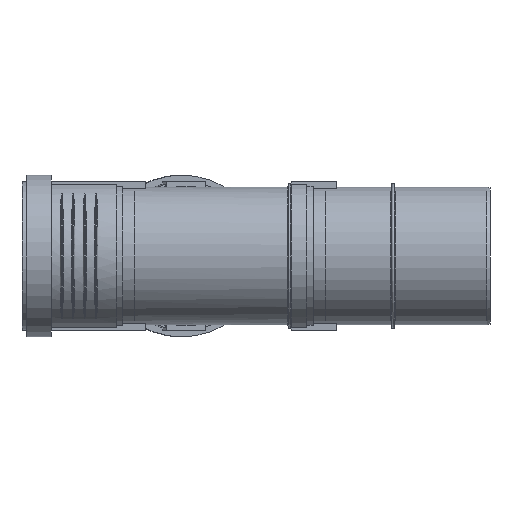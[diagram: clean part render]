
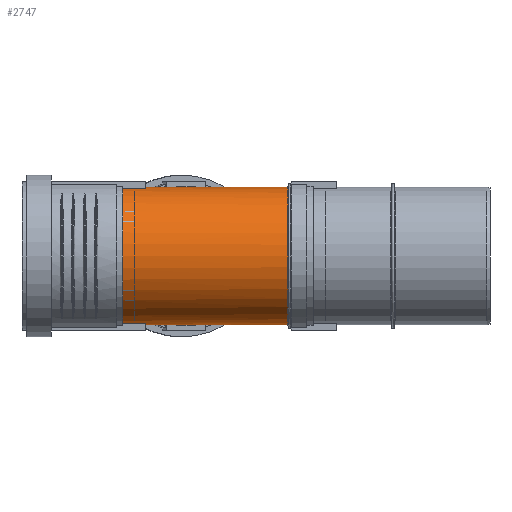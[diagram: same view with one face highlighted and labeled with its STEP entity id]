
A CAD part, left-side view. The second image highlights one B-rep face of the part: STEP entity #2747.
In plain terms, the highlighted cylindrical face has radius 45.1 mm (diameter 90.2 mm), a full revolution.
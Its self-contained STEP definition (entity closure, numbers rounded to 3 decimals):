
#340=B_SPLINE_CURVE_WITH_KNOTS($,3,(#5373,#5374,#5375,#5376,#5377,#5378,
#5379,#5380,#5381,#5382,#5383,#5384,#5385,#5386,#5387,#5388,#5389,#5390,
#5391,#5392,#5393,#5394,#5395,#5396,#5397,#5398,#5399,#5400,#5401,#5402,
#5403,#5404,#5405,#5406,#5407,#5408,#5409,#5410,#5411,#5412,#5413,#5414,
#5415,#5416,#5417,#5418,#5419,#5420,#5421,#5422,#5423,#5424,#5425,#5426),
 .UNSPECIFIED.,.F.,.F.,(4,2,2,2,2,2,2,2,2,2,2,2,2,2,2,2,2,2,2,2,2,2,2,2,
2,2,4),(0.,1.704,3.086,3.711,4.248,
4.999,5.726,6.81,8.878,10.793,
12.337,13.5,14.195,14.805,15.577,
16.831,18.13,20.217,21.528,22.465,
23.252,23.991,24.586,25.121,25.957,
27.165,29.079),.UNSPECIFIED.);
#533=CYLINDRICAL_SURFACE($,#3014,45.1);
#613=FACE_BOUND($,#949,.T.);
#740=FACE_OUTER_BOUND($,#948,.T.);
#948=EDGE_LOOP($,(#2202));
#949=EDGE_LOOP($,(#2203,#2204));
#1123=CIRCLE($,#3015,45.1);
#1124=CIRCLE($,#3016,45.1);
#1329=VERTEX_POINT($,#5355);
#1330=VERTEX_POINT($,#5356);
#1331=VERTEX_POINT($,#5428);
#1644=EDGE_CURVE($,#1330,#1329,#340,.T.);
#1645=EDGE_CURVE($,#1331,#1331,#1123,.T.);
#1646=EDGE_CURVE($,#1329,#1330,#1124,.T.);
#2202=ORIENTED_EDGE($,*,*,#1645,.F.);
#2203=ORIENTED_EDGE($,*,*,#1646,.T.);
#2204=ORIENTED_EDGE($,*,*,#1644,.T.);
#2747=ADVANCED_FACE($,(#740,#613),#533,.T.);
#3014=AXIS2_PLACEMENT_3D($,#5427,#3598,#3599);
#3015=AXIS2_PLACEMENT_3D($,#5429,#3600,#3601);
#3016=AXIS2_PLACEMENT_3D($,#5430,#3602,#3603);
#3598=DIRECTION('center_axis',(0.,1.,0.));
#3599=DIRECTION('ref_axis',(-1.,0.,0.));
#3600=DIRECTION('center_axis',(0.,1.,0.));
#3601=DIRECTION('ref_axis',(-1.,0.,0.));
#3602=DIRECTION('center_axis',(0.,1.,0.));
#3603=DIRECTION('ref_axis',(-1.,0.,0.));
#5355=CARTESIAN_POINT('',(39.957,64.1,-20.915));
#5356=CARTESIAN_POINT('',(39.957,64.1,20.915));
#5373=CARTESIAN_POINT('Ctrl Pts',(39.957,64.1,20.915));
#5374=CARTESIAN_POINT('Ctrl Pts',(37.356,64.993,25.884));
#5375=CARTESIAN_POINT('Ctrl Pts',(33.854,66.188,30.288));
#5376=CARTESIAN_POINT('Ctrl Pts',(26.476,69.061,36.775));
#5377=CARTESIAN_POINT('Ctrl Pts',(23.146,70.488,38.841));
#5378=CARTESIAN_POINT('Ctrl Pts',(18.967,72.848,40.944));
#5379=CARTESIAN_POINT('Ctrl Pts',(17.662,73.677,41.518));
#5380=CARTESIAN_POINT('Ctrl Pts',(15.393,75.463,42.407));
#5381=CARTESIAN_POINT('Ctrl Pts',(14.405,76.388,42.747));
#5382=CARTESIAN_POINT('Ctrl Pts',(12.324,78.936,43.402));
#5383=CARTESIAN_POINT('Ctrl Pts',(11.44,80.578,43.629));
#5384=CARTESIAN_POINT('Ctrl Pts',(10.292,84.245,43.914));
#5385=CARTESIAN_POINT('Ctrl Pts',(10.044,86.147,43.967));
#5386=CARTESIAN_POINT('Ctrl Pts',(9.896,90.838,44.001));
#5387=CARTESIAN_POINT('Ctrl Pts',(10.202,94.236,43.94));
#5388=CARTESIAN_POINT('Ctrl Pts',(12.682,106.553,43.313));
#5389=CARTESIAN_POINT('Ctrl Pts',(16.039,116.212,42.404));
#5390=CARTESIAN_POINT('Ctrl Pts',(24.001,134.489,38.423));
#5391=CARTESIAN_POINT('Ctrl Pts',(28.208,142.543,35.629));
#5392=CARTESIAN_POINT('Ctrl Pts',(35.277,154.991,28.456));
#5393=CARTESIAN_POINT('Ctrl Pts',(38.02,159.417,24.703));
#5394=CARTESIAN_POINT('Ctrl Pts',(41.748,165.275,17.421));
#5395=CARTESIAN_POINT('Ctrl Pts',(43.117,167.351,13.845));
#5396=CARTESIAN_POINT('Ctrl Pts',(44.546,169.495,7.46));
#5397=CARTESIAN_POINT('Ctrl Pts',(44.899,170.018,4.97));
#5398=CARTESIAN_POINT('Ctrl Pts',(45.156,170.4,0.162));
#5399=CARTESIAN_POINT('Ctrl Pts',(45.107,170.328,-2.085));
#5400=CARTESIAN_POINT('Ctrl Pts',(44.623,169.608,-7.128));
#5401=CARTESIAN_POINT('Ctrl Pts',(44.096,168.824,-9.827));
#5402=CARTESIAN_POINT('Ctrl Pts',(42.193,165.947,-16.497));
#5403=CARTESIAN_POINT('Ctrl Pts',(40.425,163.249,-20.443));
#5404=CARTESIAN_POINT('Ctrl Pts',(35.801,155.794,-27.781));
#5405=CARTESIAN_POINT('Ctrl Pts',(33.163,151.353,-30.767));
#5406=CARTESIAN_POINT('Ctrl Pts',(26.428,139.184,-36.979));
#5407=CARTESIAN_POINT('Ctrl Pts',(22.226,130.762,-39.437));
#5408=CARTESIAN_POINT('Ctrl Pts',(16.439,116.768,-42.069));
#5409=CARTESIAN_POINT('Ctrl Pts',(14.378,111.118,-42.779));
#5410=CARTESIAN_POINT('Ctrl Pts',(11.645,101.513,-43.587));
#5411=CARTESIAN_POINT('Ctrl Pts',(10.632,97.124,-43.831));
#5412=CARTESIAN_POINT('Ctrl Pts',(9.829,89.513,-44.017));
#5413=CARTESIAN_POINT('Ctrl Pts',(9.942,86.944,-43.992));
#5414=CARTESIAN_POINT('Ctrl Pts',(10.596,82.98,-43.839));
#5415=CARTESIAN_POINT('Ctrl Pts',(11.18,81.164,-43.704));
#5416=CARTESIAN_POINT('Ctrl Pts',(12.911,78.13,-43.22));
#5417=CARTESIAN_POINT('Ctrl Pts',(13.871,76.957,-42.93));
#5418=CARTESIAN_POINT('Ctrl Pts',(15.961,74.965,-42.194));
#5419=CARTESIAN_POINT('Ctrl Pts',(17.041,74.143,-41.774));
#5420=CARTESIAN_POINT('Ctrl Pts',(19.871,72.265,-40.53));
#5421=CARTESIAN_POINT('Ctrl Pts',(21.685,71.31,-39.598));
#5422=CARTESIAN_POINT('Ctrl Pts',(26.007,69.255,-36.967));
#5423=CARTESIAN_POINT('Ctrl Pts',(28.498,68.26,-35.097));
#5424=CARTESIAN_POINT('Ctrl Pts',(34.445,65.991,-29.537));
#5425=CARTESIAN_POINT('Ctrl Pts',(37.577,64.917,-25.462));
#5426=CARTESIAN_POINT('Ctrl Pts',(39.957,64.1,-20.915));
#5427=CARTESIAN_POINT('Origin',(0.,120.53,0.));
#5428=CARTESIAN_POINT('',(-45.1,176.96,0.));
#5429=CARTESIAN_POINT('Origin',(0.,176.96,0.));
#5430=CARTESIAN_POINT('Origin',(0.,64.1,0.));
